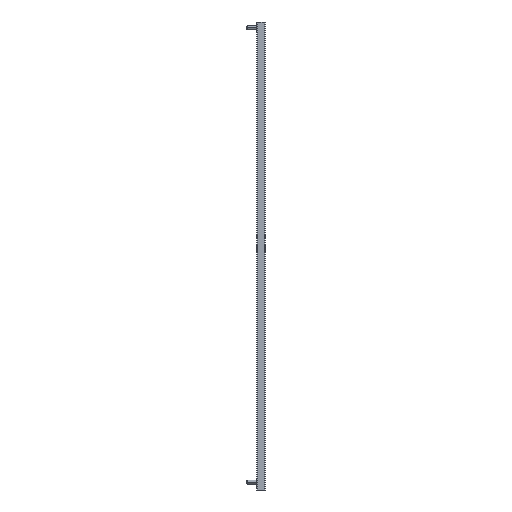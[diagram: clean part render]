
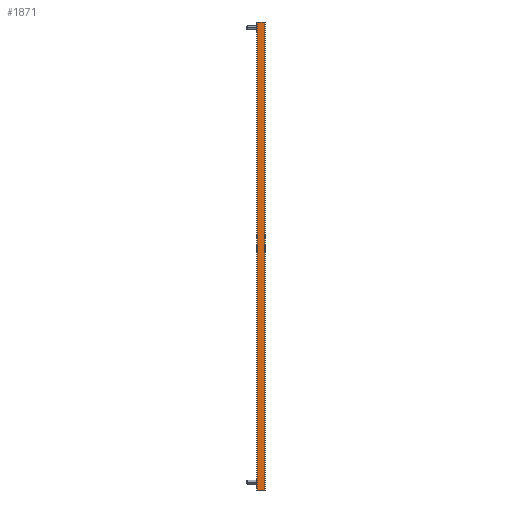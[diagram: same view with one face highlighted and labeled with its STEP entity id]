
A CAD part, left-side view. The second image highlights one B-rep face of the part: STEP entity #1871.
In plain terms, the highlighted planar face has unit normal (-1, 0, 0).
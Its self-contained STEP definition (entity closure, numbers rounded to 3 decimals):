
#167 = EDGE_CURVE ( 'NONE', #1631, #3728, #3425, .T. ) ;
#286 = VECTOR ( 'NONE', #882, 1000. ) ;
#379 = LINE ( 'NONE', #1013, #753 ) ;
#431 = VERTEX_POINT ( 'NONE', #930 ) ;
#508 = CARTESIAN_POINT ( 'NONE',  ( -8., 12.5, 679. ) ) ;
#588 = EDGE_CURVE ( 'NONE', #804, #3622, #1466, .T. ) ;
#602 = CARTESIAN_POINT ( 'NONE',  ( -8., 3.2, 679. ) ) ;
#653 = DIRECTION ( 'NONE',  ( 0., -1., 0. ) ) ;
#703 = CARTESIAN_POINT ( 'NONE',  ( -8., 0., 0. ) ) ;
#734 = EDGE_CURVE ( 'NONE', #1476, #1821, #4314, .T. ) ;
#753 = VECTOR ( 'NONE', #653, 1000. ) ;
#798 = CARTESIAN_POINT ( 'NONE',  ( -8., 0., 679. ) ) ;
#804 = VERTEX_POINT ( 'NONE', #4295 ) ;
#882 = DIRECTION ( 'NONE',  ( 0., -1., 0. ) ) ;
#930 = CARTESIAN_POINT ( 'NONE',  ( -8., 0., 679. ) ) ;
#938 = DIRECTION ( 'NONE',  ( 0., -1., 0. ) ) ;
#1013 = CARTESIAN_POINT ( 'NONE',  ( -8., 0., 0. ) ) ;
#1466 = LINE ( 'NONE', #703, #1533 ) ;
#1476 = VERTEX_POINT ( 'NONE', #3200 ) ;
#1532 = CARTESIAN_POINT ( 'NONE',  ( -8., 0., 0. ) ) ;
#1533 = VECTOR ( 'NONE', #3492, 1000. ) ;
#1604 = ORIENTED_EDGE ( 'NONE', *, *, #588, .T. ) ;
#1631 = VERTEX_POINT ( 'NONE', #508 ) ;
#1806 = AXIS2_PLACEMENT_3D ( 'NONE', #3421, #2027, #4476 ) ;
#1821 = VERTEX_POINT ( 'NONE', #2405 ) ;
#1871 = ADVANCED_FACE ( 'NONE', ( #2052 ), #2994, .T. ) ;
#1875 = ORIENTED_EDGE ( 'NONE', *, *, #4088, .T. ) ;
#1918 = ORIENTED_EDGE ( 'NONE', *, *, #167, .F. ) ;
#1949 = EDGE_CURVE ( 'NONE', #431, #2119, #3843, .T. ) ;
#1999 = EDGE_CURVE ( 'NONE', #2119, #3728, #4398, .T. ) ;
#2027 = DIRECTION ( 'NONE',  ( -1., 0., 0. ) ) ;
#2052 = FACE_OUTER_BOUND ( 'NONE', #3332, .T. ) ;
#2119 = VERTEX_POINT ( 'NONE', #602 ) ;
#2182 = ORIENTED_EDGE ( 'NONE', *, *, #1949, .T. ) ;
#2241 = VECTOR ( 'NONE', #3149, 1000. ) ;
#2326 = DIRECTION ( 'NONE',  ( 0., 0., 1. ) ) ;
#2405 = CARTESIAN_POINT ( 'NONE',  ( -8., 0., 0. ) ) ;
#2521 = DIRECTION ( 'NONE',  ( 0., 0., 1. ) ) ;
#2591 = ORIENTED_EDGE ( 'NONE', *, *, #3529, .F. ) ;
#2691 = CARTESIAN_POINT ( 'NONE',  ( -8., 0., 679. ) ) ;
#2710 = DIRECTION ( 'NONE',  ( 0., 1., 0. ) ) ;
#2752 = CARTESIAN_POINT ( 'NONE',  ( -8., 12.5, 679. ) ) ;
#2994 = PLANE ( 'NONE',  #1806 ) ;
#3083 = VECTOR ( 'NONE', #2326, 1000. ) ;
#3123 = EDGE_CURVE ( 'NONE', #1821, #431, #3676, .T. ) ;
#3149 = DIRECTION ( 'NONE',  ( 0., 1., 0. ) ) ;
#3200 = CARTESIAN_POINT ( 'NONE',  ( -8., 3.2, 0. ) ) ;
#3262 = ORIENTED_EDGE ( 'NONE', *, *, #734, .T. ) ;
#3332 = EDGE_LOOP ( 'NONE', ( #2591, #1604, #1875, #3262, #3738, #2182, #3776, #1918 ) ) ;
#3421 = CARTESIAN_POINT ( 'NONE',  ( -8., 0., 679. ) ) ;
#3425 = LINE ( 'NONE', #2752, #4055 ) ;
#3481 = CARTESIAN_POINT ( 'NONE',  ( -8., 9.3, 0. ) ) ;
#3492 = DIRECTION ( 'NONE',  ( 0., -1., 0. ) ) ;
#3529 = EDGE_CURVE ( 'NONE', #804, #1631, #4054, .T. ) ;
#3594 = VECTOR ( 'NONE', #2521, 1000. ) ;
#3622 = VERTEX_POINT ( 'NONE', #3481 ) ;
#3676 = LINE ( 'NONE', #798, #3594 ) ;
#3728 = VERTEX_POINT ( 'NONE', #4138 ) ;
#3738 = ORIENTED_EDGE ( 'NONE', *, *, #3123, .T. ) ;
#3776 = ORIENTED_EDGE ( 'NONE', *, *, #1999, .T. ) ;
#3820 = CARTESIAN_POINT ( 'NONE',  ( -8., 0., 679. ) ) ;
#3843 = LINE ( 'NONE', #3820, #2241 ) ;
#4048 = VECTOR ( 'NONE', #2710, 1000. ) ;
#4054 = LINE ( 'NONE', #4079, #3083 ) ;
#4055 = VECTOR ( 'NONE', #938, 1000. ) ;
#4079 = CARTESIAN_POINT ( 'NONE',  ( -8., 12.5, 679. ) ) ;
#4088 = EDGE_CURVE ( 'NONE', #3622, #1476, #379, .T. ) ;
#4138 = CARTESIAN_POINT ( 'NONE',  ( -8., 9.3, 679. ) ) ;
#4295 = CARTESIAN_POINT ( 'NONE',  ( -8., 12.5, 0. ) ) ;
#4314 = LINE ( 'NONE', #1532, #286 ) ;
#4398 = LINE ( 'NONE', #2691, #4048 ) ;
#4476 = DIRECTION ( 'NONE',  ( 0., 0., 1. ) ) ;
